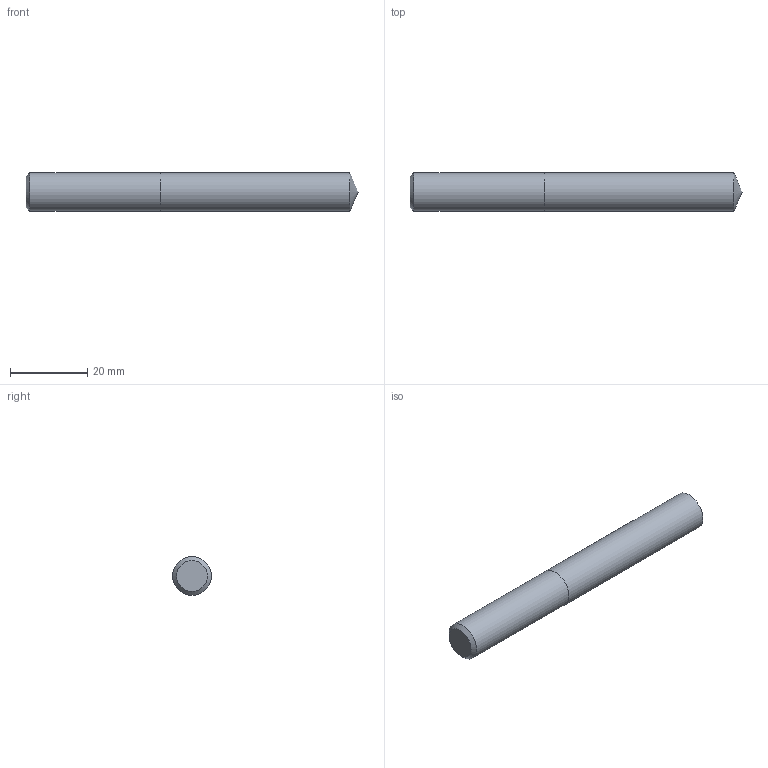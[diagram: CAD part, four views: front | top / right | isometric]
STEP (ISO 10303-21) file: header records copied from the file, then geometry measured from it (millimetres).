
FILE_DESCRIPTION (( 'STEP AP214' ), '1' );
FILE_NAME ('03-2340.STEP', '2022-06-03T06:26:40', ( 'USER' ), ( '' ), 'SwSTEP 2.0', 'SolidWorks 2018', '' );
FILE_SCHEMA (( 'AUTOMOTIVE_DESIGN' ));
Length unit declared in the file: inch
Products named in the file (1): 03-2340
Bounding box: 86.23 x 10.08 x 10.08 mm (x, y, z)
Volume: 6759.9 mm3; surface area: 2971.4 mm2
Topology: 2 solids, 2 shells, 7 faces, 11 edges, 7 vertices
Faces by surface type: plane 3, cylinder 2, cone 2
Full cylindrical faces by diameter (mm): 10.084 x2
Entity records: 214 total; most frequent: DIRECTION 26, CARTESIAN_POINT 18, AXIS2_PLACEMENT_3D 13, ORIENTED_EDGE 10, EDGE_LOOP 10, FACE_OUTER_BOUND 9, DIMENSIONAL_EXPONENTS 7, UNCERTAINTY_MEASURE_WITH_UNIT 7
